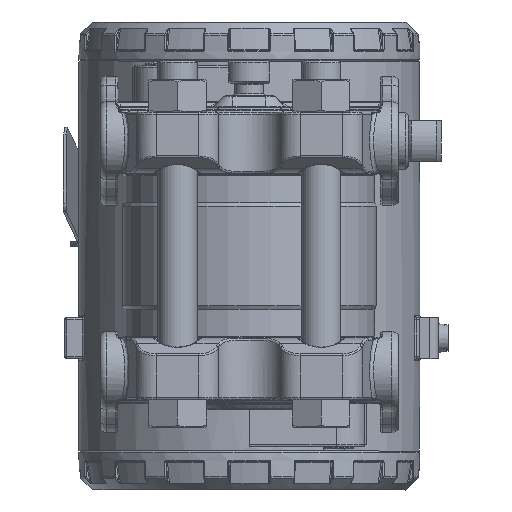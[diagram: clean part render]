
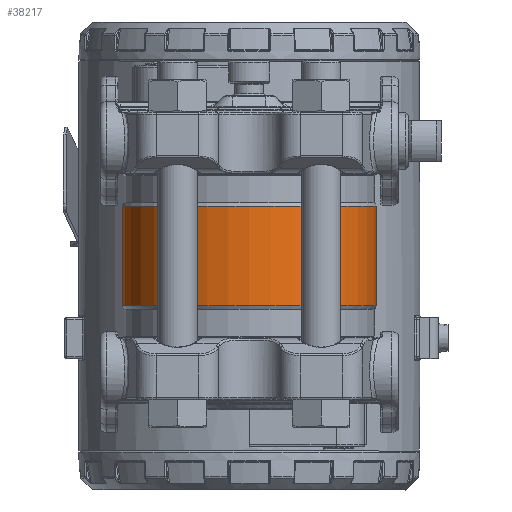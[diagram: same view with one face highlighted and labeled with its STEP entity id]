
A CAD part, left-side view. The second image highlights one B-rep face of the part: STEP entity #38217.
In plain terms, the highlighted cylindrical face has radius 31 mm (diameter 62 mm), a partial arc.
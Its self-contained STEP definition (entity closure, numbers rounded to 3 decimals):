
#2334=B_SPLINE_CURVE_WITH_KNOTS('',3,(#69265,#69266,#69267,#69268,#69269,
#69270),.UNSPECIFIED.,.F.,.F.,(4,1,1,4),(0.383,0.548,
0.913,1.279),.UNSPECIFIED.);
#2336=B_SPLINE_CURVE_WITH_KNOTS('',3,(#69283,#69284,#69285,#69286,#69287,
#69288),.UNSPECIFIED.,.F.,.F.,(4,1,1,4),(0.,0.274,0.548,
0.896),.UNSPECIFIED.);
#2337=B_SPLINE_CURVE_WITH_KNOTS('',3,(#69291,#69292,#69293,#69294,#69295,
#69296),.UNSPECIFIED.,.F.,.F.,(4,1,1,4),(0.383,0.548,
0.913,1.279),.UNSPECIFIED.);
#2338=B_SPLINE_CURVE_WITH_KNOTS('',3,(#69298,#69299,#69300,#69301,#69302,
#69303),.UNSPECIFIED.,.F.,.F.,(4,1,1,4),(0.,0.274,
0.548,0.895),.UNSPECIFIED.);
#3915=CYLINDRICAL_SURFACE('',#42227,31.);
#5192=FACE_OUTER_BOUND('',#7763,.T.);
#7763=EDGE_LOOP('',(#29180,#29181,#29182,#29183,#29184,#29185,#29186,#29187,
#29188,#29189));
#9960=LINE('',#69290,#11335);
#9961=LINE('',#69304,#11336);
#11335=VECTOR('',#49704,10.);
#11336=VECTOR('',#49705,10.);
#13329=CIRCLE('',#42207,31.);
#13332=CIRCLE('',#42210,31.);
#13338=CIRCLE('',#42220,31.);
#13339=CIRCLE('',#42221,31.);
#16520=VERTEX_POINT('',#69132);
#16522=VERTEX_POINT('',#69145);
#16523=VERTEX_POINT('',#69158);
#16535=VERTEX_POINT('',#69201);
#16536=VERTEX_POINT('',#69203);
#16537=VERTEX_POINT('',#69215);
#16539=VERTEX_POINT('',#69264);
#16542=VERTEX_POINT('',#69282);
#16543=VERTEX_POINT('',#69289);
#16544=VERTEX_POINT('',#69297);
#20959=EDGE_CURVE('',#16523,#16522,#13329,.T.);
#20963=EDGE_CURVE('',#16520,#16523,#13332,.T.);
#20975=EDGE_CURVE('',#16536,#16535,#13338,.T.);
#20978=EDGE_CURVE('',#16535,#16537,#13339,.T.);
#20982=EDGE_CURVE('',#16520,#16539,#2334,.T.);
#20986=EDGE_CURVE('',#16542,#16522,#2336,.T.);
#20987=EDGE_CURVE('',#16543,#16542,#9960,.T.);
#20988=EDGE_CURVE('',#16536,#16543,#2337,.T.);
#20989=EDGE_CURVE('',#16544,#16537,#2338,.T.);
#20990=EDGE_CURVE('',#16539,#16544,#9961,.T.);
#29180=ORIENTED_EDGE('',*,*,#20963,.T.);
#29181=ORIENTED_EDGE('',*,*,#20959,.T.);
#29182=ORIENTED_EDGE('',*,*,#20986,.F.);
#29183=ORIENTED_EDGE('',*,*,#20987,.F.);
#29184=ORIENTED_EDGE('',*,*,#20988,.F.);
#29185=ORIENTED_EDGE('',*,*,#20975,.T.);
#29186=ORIENTED_EDGE('',*,*,#20978,.T.);
#29187=ORIENTED_EDGE('',*,*,#20989,.F.);
#29188=ORIENTED_EDGE('',*,*,#20990,.F.);
#29189=ORIENTED_EDGE('',*,*,#20982,.F.);
#38217=ADVANCED_FACE('',(#5192),#3915,.T.);
#42207=AXIS2_PLACEMENT_3D('',#69159,#49658,#49659);
#42210=AXIS2_PLACEMENT_3D('',#69165,#49665,#49666);
#42220=AXIS2_PLACEMENT_3D('',#69204,#49687,#49688);
#42221=AXIS2_PLACEMENT_3D('',#69228,#49689,#49690);
#42227=AXIS2_PLACEMENT_3D('',#69281,#49702,#49703);
#49658=DIRECTION('center_axis',(0.,0.,1.));
#49659=DIRECTION('ref_axis',(-1.,0.,0.));
#49665=DIRECTION('center_axis',(0.,0.,1.));
#49666=DIRECTION('ref_axis',(-1.,0.,0.));
#49687=DIRECTION('center_axis',(0.,0.,-1.));
#49688=DIRECTION('ref_axis',(-1.,0.,0.));
#49689=DIRECTION('center_axis',(0.,0.,-1.));
#49690=DIRECTION('ref_axis',(-1.,0.,0.));
#49702=DIRECTION('center_axis',(0.,0.,1.));
#49703=DIRECTION('ref_axis',(-1.,0.,0.));
#49704=DIRECTION('',(0.,0.,-1.));
#49705=DIRECTION('',(0.,0.,1.));
#69132=CARTESIAN_POINT('',(29.987,7.86,-12.134));
#69145=CARTESIAN_POINT('',(29.987,-7.86,-12.134));
#69158=CARTESIAN_POINT('',(-31.,0.,-12.134));
#69159=CARTESIAN_POINT('Origin',(0.,0.,-12.134));
#69165=CARTESIAN_POINT('Origin',(0.,0.,-12.134));
#69201=CARTESIAN_POINT('',(-31.,0.,12.134));
#69203=CARTESIAN_POINT('',(29.987,-7.86,12.134));
#69204=CARTESIAN_POINT('Origin',(0.,0.,12.134));
#69215=CARTESIAN_POINT('',(29.987,7.86,12.134));
#69228=CARTESIAN_POINT('Origin',(0.,0.,12.134));
#69264=CARTESIAN_POINT('',(28.645,11.853,-5.));
#69265=CARTESIAN_POINT('Ctrl Pts',(29.985,7.857,-12.131));
#69266=CARTESIAN_POINT('Ctrl Pts',(29.871,8.293,-11.889));
#69267=CARTESIAN_POINT('Ctrl Pts',(29.495,9.621,-10.961));
#69268=CARTESIAN_POINT('Ctrl Pts',(28.867,11.328,-8.643));
#69269=CARTESIAN_POINT('Ctrl Pts',(28.645,11.853,-6.218));
#69270=CARTESIAN_POINT('Ctrl Pts',(28.645,11.853,-5.));
#69281=CARTESIAN_POINT('Origin',(0.,0.,0.));
#69282=CARTESIAN_POINT('',(28.645,-11.853,-5.));
#69283=CARTESIAN_POINT('Ctrl Pts',(28.645,-11.853,-5.));
#69284=CARTESIAN_POINT('Ctrl Pts',(28.645,-11.853,-5.913));
#69285=CARTESIAN_POINT('Ctrl Pts',(28.767,-11.563,-7.738));
#69286=CARTESIAN_POINT('Ctrl Pts',(29.282,-10.232,-10.332));
#69287=CARTESIAN_POINT('Ctrl Pts',(29.747,-8.777,-11.623));
#69288=CARTESIAN_POINT('Ctrl Pts',(29.987,-7.86,-12.134));
#69289=CARTESIAN_POINT('',(28.645,-11.853,5.));
#69290=CARTESIAN_POINT('',(28.645,-11.853,0.));
#69291=CARTESIAN_POINT('Ctrl Pts',(29.985,-7.857,12.131));
#69292=CARTESIAN_POINT('Ctrl Pts',(29.871,-8.293,11.889));
#69293=CARTESIAN_POINT('Ctrl Pts',(29.495,-9.621,10.961));
#69294=CARTESIAN_POINT('Ctrl Pts',(28.867,-11.328,8.643));
#69295=CARTESIAN_POINT('Ctrl Pts',(28.645,-11.853,6.218));
#69296=CARTESIAN_POINT('Ctrl Pts',(28.645,-11.853,5.));
#69297=CARTESIAN_POINT('',(28.645,11.853,5.));
#69298=CARTESIAN_POINT('Ctrl Pts',(28.645,11.853,5.));
#69299=CARTESIAN_POINT('Ctrl Pts',(28.645,11.853,5.913));
#69300=CARTESIAN_POINT('Ctrl Pts',(28.767,11.563,7.738));
#69301=CARTESIAN_POINT('Ctrl Pts',(29.282,10.232,10.332));
#69302=CARTESIAN_POINT('Ctrl Pts',(29.747,8.777,11.623));
#69303=CARTESIAN_POINT('Ctrl Pts',(29.987,7.86,12.134));
#69304=CARTESIAN_POINT('',(28.645,11.853,0.));
